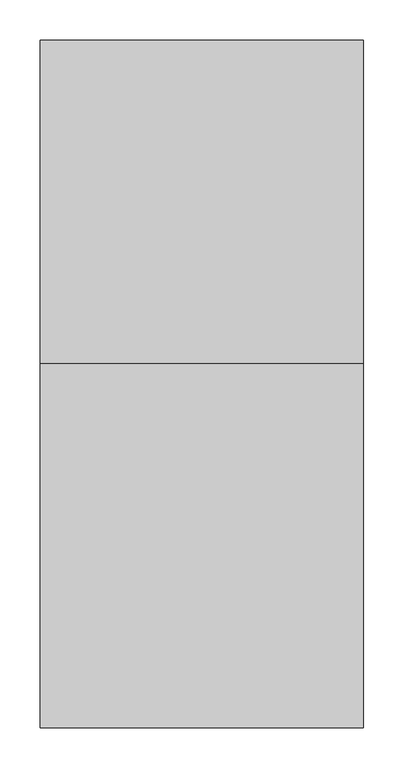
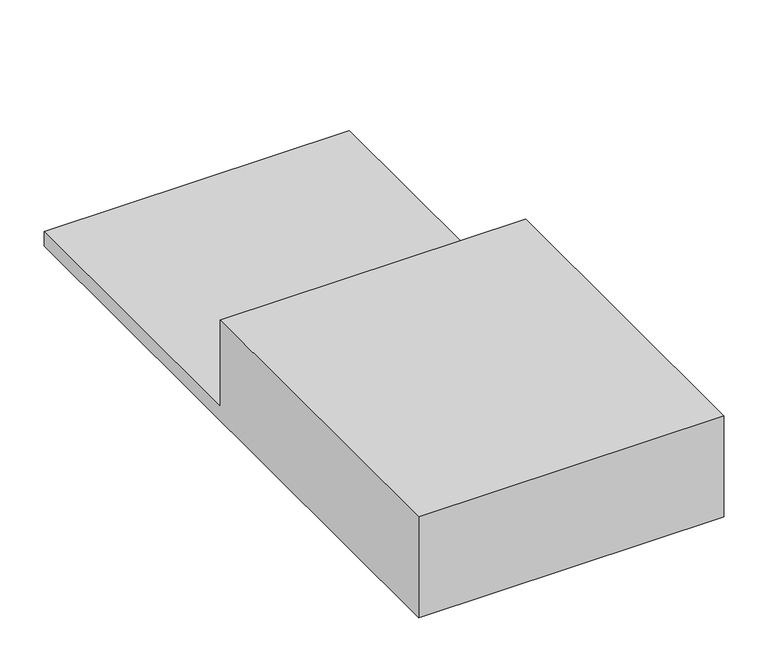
"""IFC4 building model written with IfcOpenShell, lengths in millimetres: proxy geometry, bossages appuis C1a : bossages appuis."""

from ifc_helpers import new_model, si_unit, frame, origin, place, context, project, spatial, polyline, outline, extrude, source, transform, mapped, element, save


def generic_models_d45a0df8(model_context):
    return source(origin(), model_context, "Body", "SweptSolid", [
        extrude(outline(polyline([(-1975.0, 4230.0), (-1525.0, 4230.0), (-1525.0, 4110.0), (-1125.0, 4110.0), (-1125.0, 4090.0), (-1975.0, 4090.0), (-1975.0, 4230.0)])), frame((6150.0, 0.0, 0.0), z_axis=(1.0, 0.0, 0.0), x_axis=(0.0, 1.0, 0.0)), (0.0, 0.0, 1.0), 400.0),
    ])


if __name__ == "__main__":
    model = new_model("IFC4")
    model_context = context("Model", 3, world=origin())
    ifc_project = project(units=[si_unit("LENGTHUNIT", "METRE", prefix="MILLI")], contexts=[model_context])
    site = spatial("IfcSite", under=ifc_project)
    building = spatial("IfcBuilding", under=site)
    placement = place(None, origin())
    generic_models_shape = generic_models_d45a0df8(model_context)
    element("IfcBuildingElementProxy", 1, Name="bossages appuis C1a : bossages appuis", ObjectType="bossages appuis C1a : bossages appuis", at=placement, inside=building, context=model_context, shape_type="MappedRepresentation", body=[
        mapped(generic_models_shape, transform((0.0, 0.0, 0.0), x_axis=(1.0, 0.0, 0.0), y_axis=(0.0, 1.0, 0.0), z_axis=(0.0, 0.0, 1.0))),
    ])
    save(model, "model.ifc")
